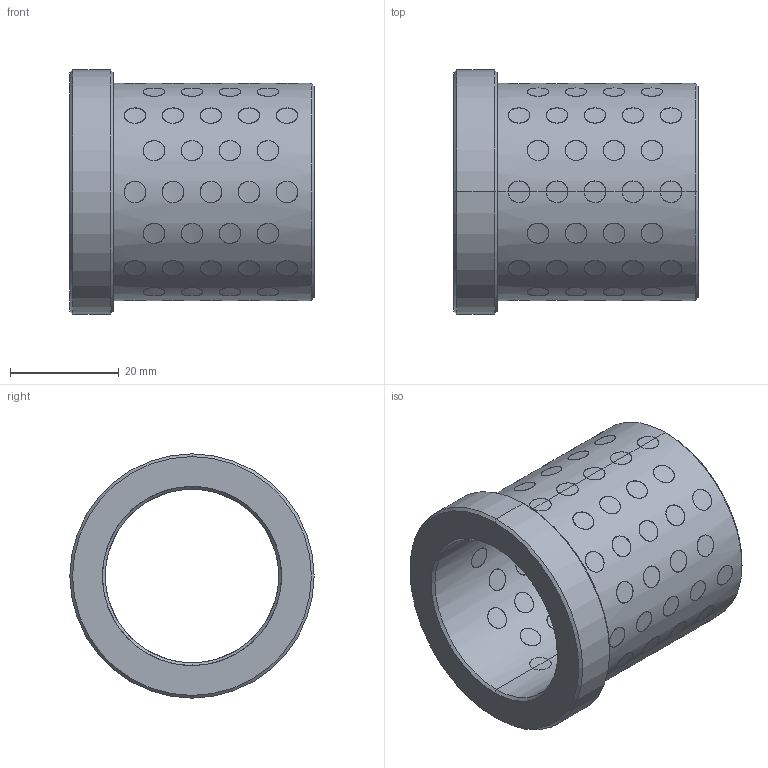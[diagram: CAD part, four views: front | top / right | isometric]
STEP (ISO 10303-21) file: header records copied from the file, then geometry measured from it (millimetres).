
FILE_DESCRIPTION(('CATIA V5 STEP Exchange'),'2;1');
FILE_NAME('C:\Users\Utente\Desktop\3D files G401\G4013245.stp','2020-04-22T08:35:59+00:00',('none'),('none'),'CATIA Version 5 Release 20 GA (IN-10)','CATIA V5 STEP AP203','none');
FILE_SCHEMA(('CONFIG_CONTROL_DESIGN'));
Products named in the file (1): G4013245
Bounding box: 45 x 45 x 45 mm (x, y, z)
Surface area: 18868.2 mm2 (no closed solid volume)
Topology: 0 solids, 471 shells, 471 faces, 2044 edges, 2044 vertices
Faces by surface type: cylinder 458, revolution 10, plane 3
Entity records: 41187 total; most frequent: CARTESIAN_POINT 27021, ORIENTED_EDGE 2044, EDGE_CURVE 2044, VERTEX_POINT 2044, DIRECTION 1657, B_SPLINE_CURVE_WITH_KNOTS 1329, VECTOR 688, LINE 688
